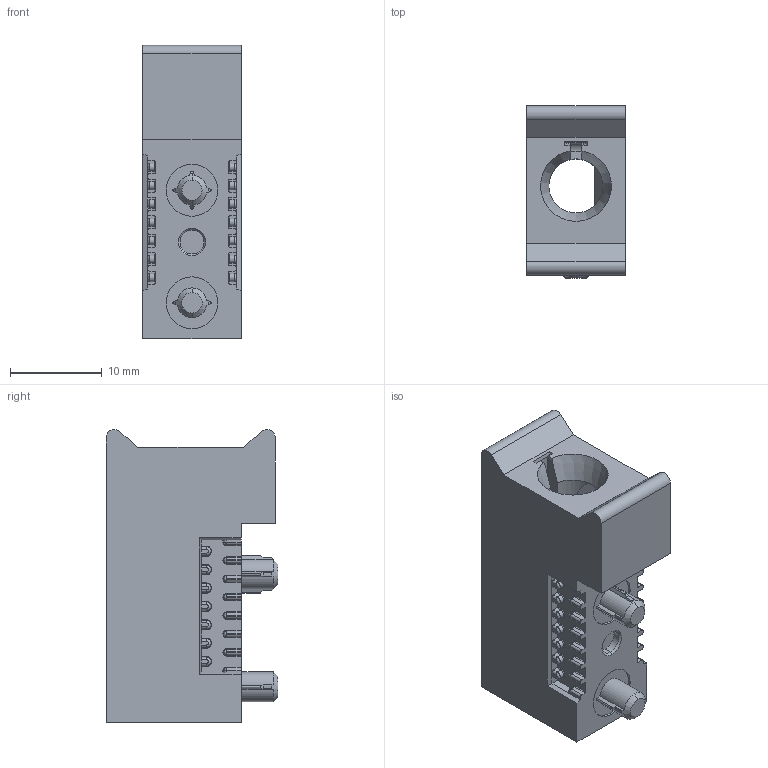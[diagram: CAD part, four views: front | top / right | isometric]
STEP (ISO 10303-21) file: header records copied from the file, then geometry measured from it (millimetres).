
FILE_DESCRIPTION((''),'2;1');
FILE_NAME('C-1-1410546-7','2010-07-27T',('workeradm'),('Tyco Electronics Ltd.'),'PRO/ENGINEER BY PARAMETRIC TECHNOLOGY CORPORATION, 2009300','PRO/ENGINEER BY PARAMETRIC TECHNOLOGY CORPORATION, 2009300','');
FILE_SCHEMA(('AUTOMOTIVE_DESIGN { 1 0 10303 214 1 1 1 1 }'));
Length unit declared in the file: millimetre
Products named in the file (1): C-1-1410546-7
Bounding box: 10.7 x 18.7 x 31.88 mm (x, y, z)
Volume: 4191.2 mm3; surface area: 2754.8 mm2
Topology: 1 solids, 1 shells, 426 faces, 1094 edges, 675 vertices
Faces by surface type: cylinder 185, plane 168, torus 30, bspline 30, cone 13
Entity records: 13886 total; most frequent: CARTESIAN_POINT 3140, DIRECTION 2283, ORIENTED_EDGE 2188, EDGE_CURVE 1094, AXIS2_PLACEMENT_3D 833, VERTEX_POINT 676, VECTOR 617, LINE 617
